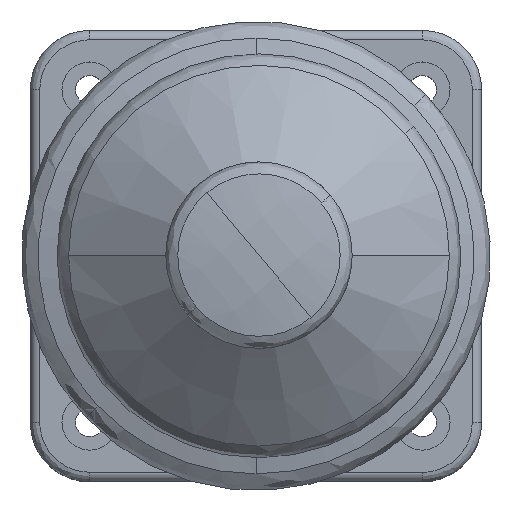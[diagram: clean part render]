
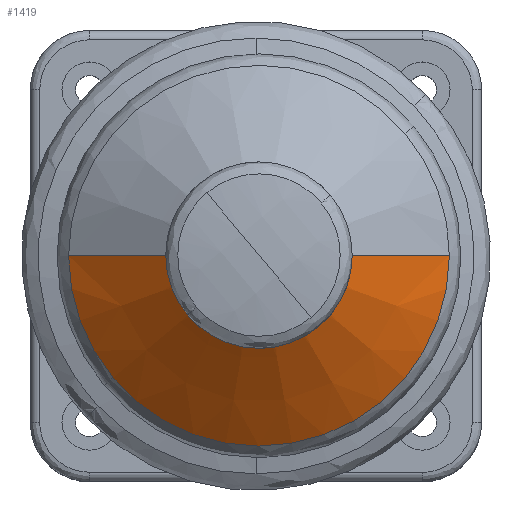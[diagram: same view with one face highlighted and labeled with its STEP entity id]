
A CAD part, top view. The second image highlights one B-rep face of the part: STEP entity #1419.
In plain terms, the highlighted conical face has half-angle 52.307 degrees and reference radius 20.356 mm.
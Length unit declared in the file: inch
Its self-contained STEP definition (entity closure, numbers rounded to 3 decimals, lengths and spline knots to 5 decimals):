
#1419 = ADVANCED_FACE ( 'NONE', ( #25856 ), #25867, .T. ) ;
#1965 = EDGE_LOOP ( 'NONE', ( #7304, #7305, #7306, #7307, #7308 ) ) ;
#5163 = CIRCLE ( 'NONE', #17503, 0.80143 ) ;
#7304 = ORIENTED_EDGE ( 'NONE', *, *, #15582, .F. ) ;
#7305 = ORIENTED_EDGE ( 'NONE', *, *, #15591, .T. ) ;
#7306 = ORIENTED_EDGE ( 'NONE', *, *, #15584, .T. ) ;
#7307 = ORIENTED_EDGE ( 'NONE', *, *, #7480, .F. ) ;
#7308 = ORIENTED_EDGE ( 'NONE', *, *, #15593, .F. ) ;
#7480 = EDGE_CURVE ( 'NONE', #23120, #23121, #5163, .T. ) ;
#11683 = AXIS2_PLACEMENT_3D ( 'NONE', #13172, #13167, #13169 ) ;
#13167 = DIRECTION ( 'NONE',  ( 0., 0., -1. ) ) ;
#13169 = DIRECTION ( 'NONE',  ( -1., 0., 0. ) ) ;
#13172 = CARTESIAN_POINT ( 'NONE',  ( 0.0125, -0.00005, 0.97187 ) ) ;
#15582 = EDGE_CURVE ( 'NONE', #23137, #23140, #27830, .T. ) ;
#15584 = EDGE_CURVE ( 'NONE', #23132, #23121, #27835, .T. ) ;
#15591 = EDGE_CURVE ( 'NONE', #23137, #23132, #27845, .T. ) ;
#15593 = EDGE_CURVE ( 'NONE', #23140, #23120, #27847, .T. ) ;
#17302 = CARTESIAN_POINT ( 'NONE',  ( 0.0125, -0.00005, 0.97187 ) ) ;
#17303 = DIRECTION ( 'NONE',  ( 0., 0., -1. ) ) ;
#17304 = DIRECTION ( 'NONE',  ( 0.767, 0.642, 0. ) ) ;
#17503 = AXIS2_PLACEMENT_3D ( 'NONE', #17302, #17303, #17304 ) ;
#22781 = AXIS2_PLACEMENT_3D ( 'NONE', #30266, #30267, #30268 ) ;
#22783 = AXIS2_PLACEMENT_3D ( 'NONE', #30272, #30273, #30274 ) ;
#23120 = VERTEX_POINT ( 'NONE', #31512 ) ;
#23121 = VERTEX_POINT ( 'NONE', #31513 ) ;
#23132 = VERTEX_POINT ( 'NONE', #31524 ) ;
#23137 = VERTEX_POINT ( 'NONE', #31529 ) ;
#23140 = VERTEX_POINT ( 'NONE', #31532 ) ;
#25856 = FACE_OUTER_BOUND ( 'NONE', #1965, .T. ) ;
#25867 = CONICAL_SURFACE ( 'NONE', #11683, 0.80143, 0.913 ) ;
#27830 = LINE ( 'NONE', #30243, #27834 ) ;
#27834 = VECTOR ( 'NONE', #30240, 39.37008 ) ;
#27835 = LINE ( 'NONE', #30241, #27837 ) ;
#27837 = VECTOR ( 'NONE', #30242, 39.37008 ) ;
#27845 = CIRCLE ( 'NONE', #22781, 0.25 ) ;
#27847 = CIRCLE ( 'NONE', #22783, 0.80143 ) ;
#30240 = DIRECTION ( 'NONE',  ( 0.791, 0., -0.611 ) ) ;
#30241 = CARTESIAN_POINT ( 'NONE',  ( -0.78893, -0.00005, 0.97187 ) ) ;
#30242 = DIRECTION ( 'NONE',  ( -0.791, 0., -0.611 ) ) ;
#30243 = CARTESIAN_POINT ( 'NONE',  ( 0.81393, -0.00005, 0.97187 ) ) ;
#30266 = CARTESIAN_POINT ( 'NONE',  ( 0.0125, -0.00005, 1.39796 ) ) ;
#30267 = DIRECTION ( 'NONE',  ( 0., 0., -1. ) ) ;
#30268 = DIRECTION ( 'NONE',  ( 0.767, 0.642, 0. ) ) ;
#30272 = CARTESIAN_POINT ( 'NONE',  ( 0.0125, -0.00005, 0.97187 ) ) ;
#30273 = DIRECTION ( 'NONE',  ( 0., 0., -1. ) ) ;
#30274 = DIRECTION ( 'NONE',  ( 0.767, 0.642, 0. ) ) ;
#31512 = CARTESIAN_POINT ( 'NONE',  ( -0.60211, -0.51439, 0.97187 ) ) ;
#31513 = CARTESIAN_POINT ( 'NONE',  ( -0.78893, -0.00005, 0.97187 ) ) ;
#31524 = CARTESIAN_POINT ( 'NONE',  ( -0.2375, -0.00005, 1.39796 ) ) ;
#31529 = CARTESIAN_POINT ( 'NONE',  ( 0.2625, -0.00005, 1.39796 ) ) ;
#31532 = CARTESIAN_POINT ( 'NONE',  ( 0.81393, -0.00005, 0.97187 ) ) ;
